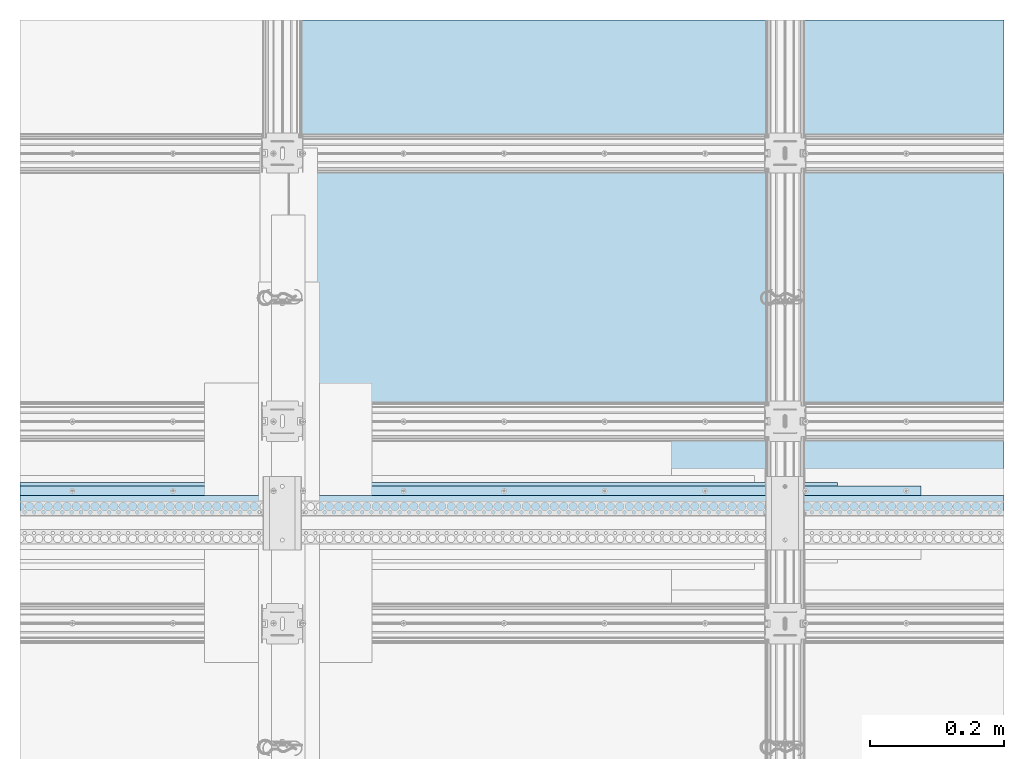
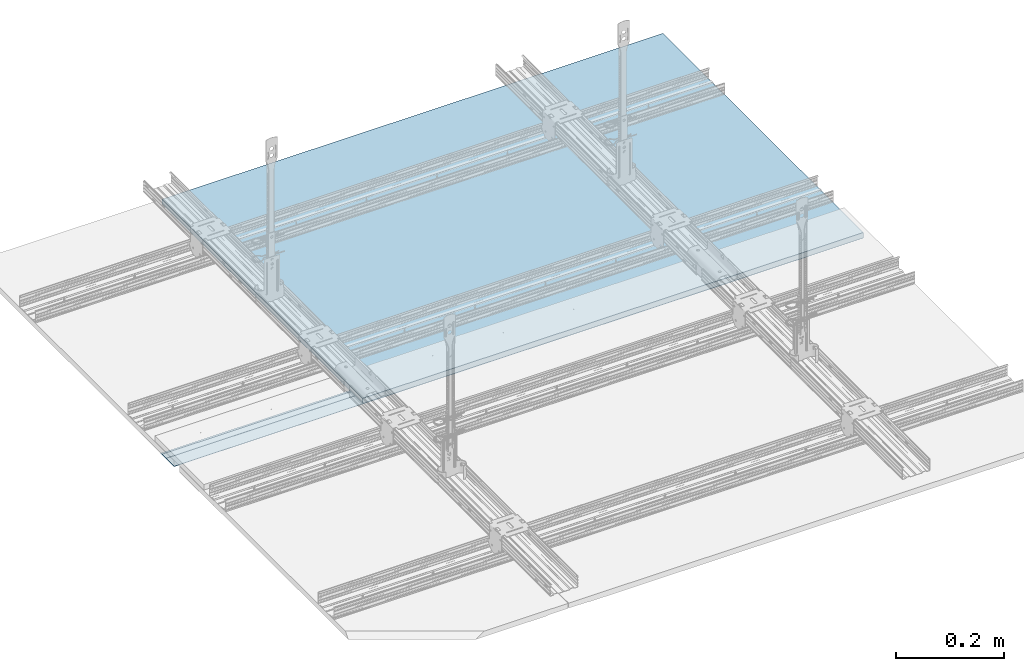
# One storey, part 3 of 56: 4 slabs.
"""IFC2X3 building model written with IfcOpenShell, lengths in millimetres."""

from ifc_helpers import new_model, entity, si_unit, converted_unit, direction, frame, origin, origin_with_axes, place, context, project, spatial, faceted_brep, element, save


model = new_model("IFC2X3")

# Units and contexts
model_context = context("Model", 3, precision=1e-05, world=origin(), true_north=direction((0.0, 1.0, 0.0)))
ifc_project = project(units=[si_unit("LENGTHUNIT", "METRE", prefix="MILLI"), si_unit("AREAUNIT", "SQUARE_METRE"), si_unit("VOLUMEUNIT", "CUBIC_METRE"), converted_unit("PLANEANGLEUNIT", "DEGREE", entity("IfcPlaneAngleMeasure", 0.01745), si_unit("PLANEANGLEUNIT", "RADIAN"), dimensions=[0, 0, 0, 0, 0, 0, 0]), si_unit("SOLIDANGLEUNIT", "STERADIAN"), si_unit("MASSUNIT", "GRAM"), si_unit("TIMEUNIT", "SECOND"), si_unit("THERMODYNAMICTEMPERATUREUNIT", "DEGREE_CELSIUS"), si_unit("LUMINOUSINTENSITYUNIT", "LUMEN")], contexts=[model_context])

# Site, building, storey
site_placement = place(None, origin_with_axes())
site = spatial("IfcSite", under=ifc_project, at=site_placement, Name="Default Site", CompositionType="ELEMENT")
building_placement = place(site_placement, origin_with_axes())
building = spatial("IfcBuilding", under=site, at=building_placement, Name="Default Building", CompositionType="ELEMENT")
storey_placement = place(building_placement, origin_with_axes())
storey = spatial("IfcBuildingStorey", under=building, at=storey_placement, Name="Default Building Storey", CompositionType="ELEMENT", Elevation=0.0)

# Slabs
slab_1_placement = place(storey_placement, frame((2526.439347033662, 2746.307050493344, 993.7852175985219), z_axis=(-1.121038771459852e-44, 1.0, 3.330669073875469e-16), x_axis=(1.0, 2.128075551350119e-28, -6.389333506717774e-13)))
element("IfcSlab", 1, at=slab_1_placement, inside=storey, Name="Płyta gipsowo-kartonowa RIGIPS PRO (4PRO™)", context=model_context, shape_type="Brep", body=[
    faceted_brep([(1066.601271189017, -7.47539274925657e-10, -428.1320433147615), (1066.601271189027, 12.49999999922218, -428.1320433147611), (44.99999999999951, 12.50000000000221, -428.1320433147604), (41.00000000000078, 11.5000000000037, -428.1320433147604), (0.9999999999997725, 11.5000000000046, -428.1320433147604), (0.741180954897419, 11.46592582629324, -428.1320433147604), (0.4999999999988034, 11.36602540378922, -428.1320433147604), (0.2928932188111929, 11.20710678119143, -428.1320433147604), (0.1339745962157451, 11.00000000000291, -428.1320433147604), (0.03407417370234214, 10.75881904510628, -428.1320433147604), (-3.97051280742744e-12, 10.50000000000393, -428.1320433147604), (1.082867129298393e-12, 5.414335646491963e-13, -428.1320433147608), (1066.601271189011, 12.49999999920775, -1167.762426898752), (44.99999999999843, 12.49999999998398, -1167.762426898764), (1066.601271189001, -7.645041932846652e-10, -1167.762426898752), (40.9999999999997, 11.49999999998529, -1167.762426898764), (0.9999999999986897, 11.49999999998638, -1167.762426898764), (0.7411809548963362, 11.46592582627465, -1167.762426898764), (0.4999999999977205, 11.36602540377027, -1167.762426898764), (0.29289321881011, 11.20710678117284, -1167.762426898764), (0.1339745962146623, 10.99999999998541, -1167.762426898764), (0.03407417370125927, 10.75881904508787, -1167.762426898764), (-5.053379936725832e-12, 10.49999999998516, -1167.762426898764), (0.0, -1.822826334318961e-11, -1167.762426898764)], [[[0, 1, 2, 3, 4, 5, 6, 7, 8, 9, 10, 11]], [[1, 12, 13, 2]], [[0, 14, 12, 1]], [[2, 13, 15, 3]], [[3, 15, 16, 4]], [[4, 16, 17, 5]], [[5, 17, 18, 6]], [[6, 18, 19, 7]], [[7, 19, 20, 8]], [[8, 20, 21, 9]], [[9, 21, 22, 10]], [[10, 22, 23, 11]], [[0, 11, 23, 14]], [[13, 12, 14, 23, 22, 21, 20, 19, 18, 17, 16, 15]]]),
])
slab_2_placement = place(storey_placement, frame((2969.960539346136, 865.7854072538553, 4101.553135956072), z_axis=(1.0, -9.963675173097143e-14, -2.65740110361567e-12), x_axis=(-1.533495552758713e-13, -1.0, 2.78446504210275e-12)))
element("IfcSlab", 2, at=slab_2_placement, inside=storey, Name="Taśma spoinowa RIGIPS", context=model_context, shape_type="Brep", body=[
    faceted_brep([(-712.4592163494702, 3120.63617230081, 374.8940238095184), (-712.4592163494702, 3120.820299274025, 374.8940238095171), (-762.45921634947, 3120.820299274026, 374.8940238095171), (-762.45921634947, 3120.636172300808, 374.8940238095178), (-712.4592163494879, 3120.820299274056, -844.9354058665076), (-712.4592163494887, 3120.636172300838, -844.9354058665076), (-762.4592163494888, 3120.636172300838, -844.9354058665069), (-762.4592163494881, 3120.820299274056, -844.9354058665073)], [[[0, 1, 2, 3]], [[4, 5, 6, 7]], [[5, 0, 3, 6]], [[6, 3, 2, 7]], [[7, 2, 1, 4]], [[4, 1, 0, 5]]]),
])
slab_3_placement = place(storey_placement, frame((3468.947590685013, 1628.54462359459, 981.1010906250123), z_axis=(1.935951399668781e-15, -1.0, 2.785103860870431e-12), x_axis=(1.0, 9.394034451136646e-16, -2.737324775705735e-12)))
element("IfcSlab", 3, at=slab_3_placement, inside=storey, Name="Dedykowana masa szpachlowa Rigips - konstrukcyjna", context=model_context, shape_type="Brep", body=[
    faceted_brep([(124.0930275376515, 0.0, 19.99999999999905), (-1343.922457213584, -1.262771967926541e-11, 19.99999999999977), (-1343.922457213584, 0.1841269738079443, 20.00000000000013), (124.093027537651, 0.1841269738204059, 19.99999999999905), (124.0930275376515, -1.661542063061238e-13, 49.99999999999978), (124.093027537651, 0.1841269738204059, 49.99999999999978), (-1343.922457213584, -1.262771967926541e-11, 50.0000000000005), (-1343.922457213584, 0.1841269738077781, 50.00000000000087)], [[[0, 1, 2, 3]], [[4, 0, 3, 5]], [[6, 4, 5, 7]], [[1, 6, 7, 2]], [[2, 7, 5, 3]], [[6, 1, 0, 4]]]),
])
slab_4_placement = place(storey_placement, frame((2865.999492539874, 865.7854072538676, 4101.737262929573), z_axis=(1.0, -9.987871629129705e-14, -2.657623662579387e-12), x_axis=(-1.533495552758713e-13, -1.0, 2.78446504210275e-12)))
element("IfcSlab", 4, at=slab_4_placement, inside=storey, Name="Dedykowana masa szpachlowa Rigips - konstrukcyjna", context=model_context, shape_type="Brep", body=[
    faceted_brep([(-742.4592163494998, 3120.544108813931, -740.9743590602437), (-742.4592163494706, 3120.544108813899, 602.9480981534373), (-742.4592163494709, 3120.359981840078, 602.9480981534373), (-742.4592163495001, 3120.359981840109, -740.9743590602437), (-757.4592163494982, 3120.359981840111, -740.9743590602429), (-757.4592163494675, 3120.359981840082, 602.9480981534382), (-712.4592163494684, 3120.544108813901, 602.9480981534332), (-712.4592163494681, 3120.820299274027, 602.9480981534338), (-757.4592163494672, 3120.820299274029, 602.9480981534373), (-712.4592163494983, 3120.820299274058, -740.9743590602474), (-712.4592163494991, 3120.54410881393, -740.9743590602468), (-757.4592163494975, 3120.820299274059, -740.9743590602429)], [[[0, 1, 2, 3]], [[4, 3, 2, 5]], [[6, 7, 8, 5, 2, 1]], [[9, 10, 0, 3, 4, 11]], [[6, 1, 0, 10]], [[11, 4, 5, 8]], [[11, 8, 7, 9]], [[9, 7, 6, 10]]]),
])

save(model, "model.ifc")
